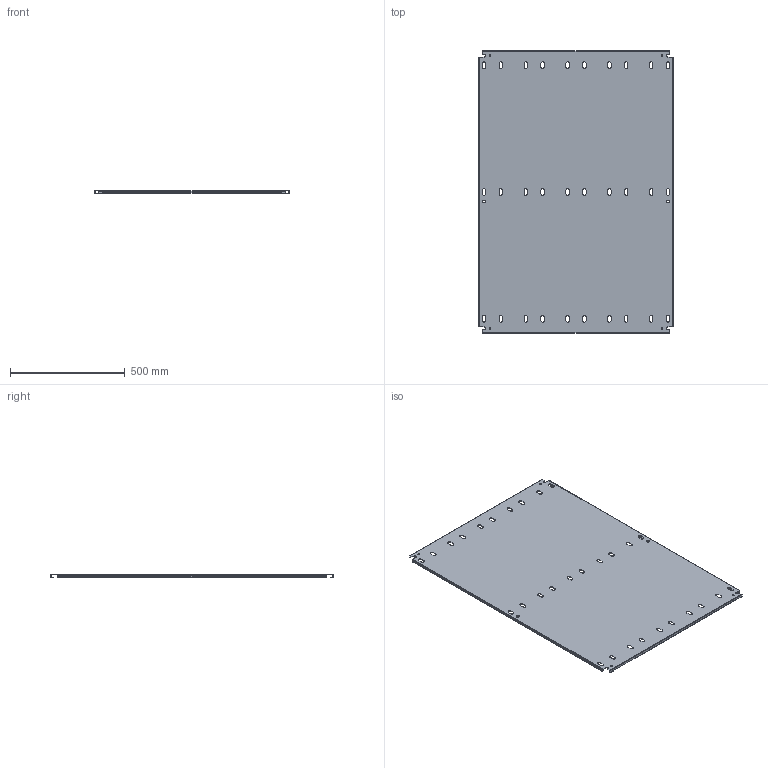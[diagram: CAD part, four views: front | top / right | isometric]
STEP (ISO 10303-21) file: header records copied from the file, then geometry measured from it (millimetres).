
FILE_DESCRIPTION(/* description */ ('1412BTCU 33.293" x 48.5" Right Inner Panel'),/* implementation_level */ '2;1');
FILE_NAME(/* name */ 'C:\Vault_Workspace\Inventor_Dwg\BoxCad\Result\1412BTCU111605DT\e-mail\3D\1412BTCU111605DTIP2.stp',/* time_stamp */ '2022-10-24T08:55:03-04:00',/* author */ ('BoxCad'),/* organization */ (''),/* preprocessor_version */ 'ST-DEVELOPER v18.1',/* originating_system */ 'Autodesk Inventor 2020',/* authorisation */ '');
FILE_SCHEMA (('AUTOMOTIVE_DESIGN { 1 0 10303 214 3 1 1 }'));
Length unit declared in the file: inch
Products named in the file (2): 1412BTCU111605DTIP2; 1412BTCU111605DTIP2-P
Assembly tree (1 placements, depth 2):
  1412BTCU111605DTIP2
    1412BTCU111605DTIP2-P
Bounding box: 845.64 x 1231.9 x 13 mm (x, y, z)
Volume: 1901371.3 mm3; surface area: 2213513.8 mm2
Topology: 1 solids, 1 shells, 240 faces, 714 edges, 476 vertices
Faces by surface type: plane 130, cylinder 110
Full cylindrical faces by diameter (mm): 7.366 x4, 12.7 x2
Entity records: 8311 total; most frequent: CARTESIAN_POINT 1433, ORIENTED_EDGE 1428, DIRECTION 1420, EDGE_CURVE 714, LINE 494, VECTOR 494, VERTEX_POINT 476, AXIS2_PLACEMENT_3D 463
